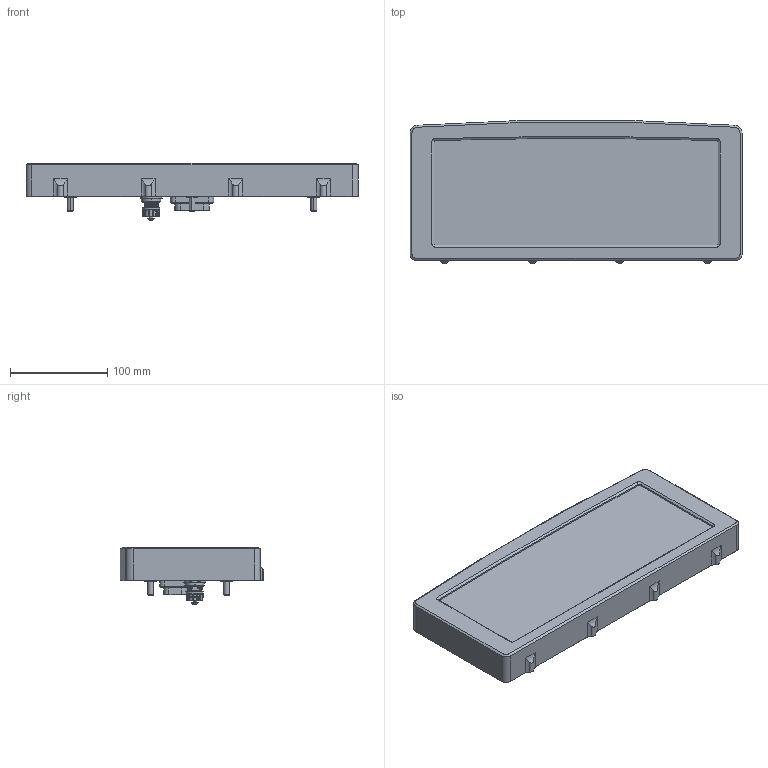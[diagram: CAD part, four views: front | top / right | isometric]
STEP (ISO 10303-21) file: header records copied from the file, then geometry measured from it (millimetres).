
FILE_DESCRIPTION(/* description */ ('Alibre Inc.'),/* implementation_level */ '2;1');
FILE_NAME(/* name */ 'export0',/* time_stamp */ '2016-01-18T16:43:32+11:00',/* author */ (''),/* organization */ (''),/* preprocessor_version */ 'ST-DEVELOPER v14',/* originating_system */ 'Alibre',/* authorisation */ '');
FILE_SCHEMA (('AUTOMOTIVE_DESIGN'));
Length unit declared in the file: centimetre
Products named in the file (7): C-1447232-23-3
Bounding box: 340.8 x 146.97 x 58.6 mm (x, y, z)
Volume: 1552267.8 mm3; surface area: 151258.1 mm2
Topology: 31 solids, 31 shells, 2056 faces, 7797 edges, 5877 vertices
Faces by surface type: plane 929, cylinder 610, bspline 290, revolution 131, cone 44, torus 36, sphere 16
Full cylindrical faces by diameter (mm): 12 x3, 22.5 x1
Entity records: 114495 total; most frequent: CARTESIAN_POINT 51039, ORIENTED_EDGE 14636, DIRECTION 12275, EDGE_CURVE 7318, VERTEX_POINT 5585, AXIS2_PLACEMENT_3D 5033, CIRCLE 3369, VECTOR 3111
